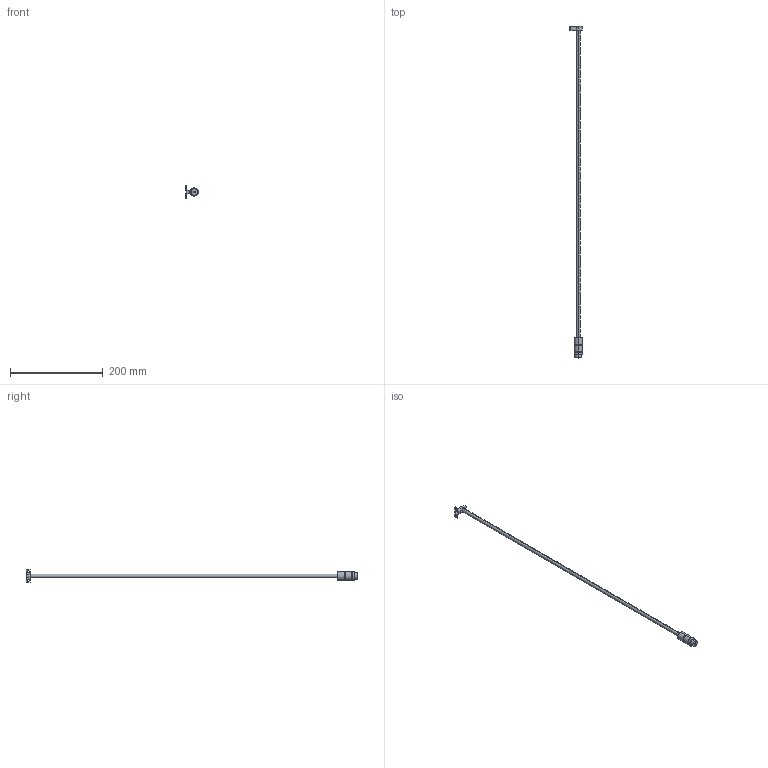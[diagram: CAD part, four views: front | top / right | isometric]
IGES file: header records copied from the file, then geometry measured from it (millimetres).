
Start section: SolidWorks IGES FILE using analytic representation for surfaces
Global section: file name: \\intra-srv04\開発データ\CAD_Data\CAD委員会\3D電子ｶﾀﾛｸﾞ\製品カタログ（新）\0_IGES\ER-VAB065.IGS,41HSolidWorks 2004; native system: by SolidWorks Corporation; preprocessor: Version 5.3; author: mf1158; date: 050905.092946; units: millimetre
Bounding box: 28 x 717.4 x 26 mm (x, y, z)
Volume: 35894.2 mm3; surface area: 30964.9 mm2
Topology: 2 solids, 2 shells, 193 faces, 542 edges, 360 vertices
Faces by surface type: revolution 158, plane 35
